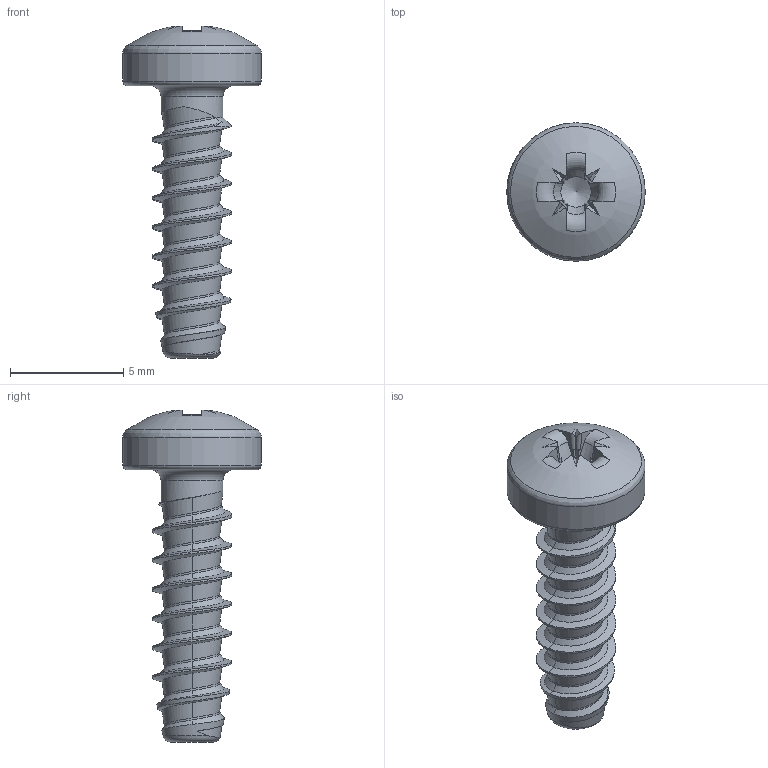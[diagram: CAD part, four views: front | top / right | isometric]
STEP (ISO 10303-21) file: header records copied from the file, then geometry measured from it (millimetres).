
FILE_DESCRIPTION(/* description */ (''),/* implementation_level */ '2;1');
FILE_NAME(/* name */ 'KN6032-STSplus-35x12-Z2.step',/* time_stamp */ '2017-10-10T15:55:39+02:00',/* author */ (''),/* organization */ (''),/* preprocessor_version */ 'ST-DEVELOPER v16',/* originating_system */ 'SIEMENS PLM Software NX 10.0',/* authorisation */ '');
FILE_SCHEMA (('AUTOMOTIVE_DESIGN { 1 0 10303 214 3 1 1 1 }'));
Length unit declared in the file: millimetre
Products named in the file (1): KN6032-STSplus-35x12-Z2
Bounding box: 6.1 x 6.1 x 14.63 mm (x, y, z)
Volume: 129.4 mm3; surface area: 238.4 mm2
Topology: 1 solids, 1 shells, 113 faces, 275 edges, 164 vertices
Faces by surface type: bspline 44, plane 42, cylinder 11, torus 8, cone 7, sphere 1
Full cylindrical faces by diameter (mm): 2.73 x1, 6.1 x1
Entity records: 5662 total; most frequent: CARTESIAN_POINT 3386, ORIENTED_EDGE 522, DIRECTION 350, EDGE_CURVE 261, VERTEX_POINT 159, AXIS2_PLACEMENT_3D 125, EDGE_LOOP 121, ADVANCED_FACE 113
